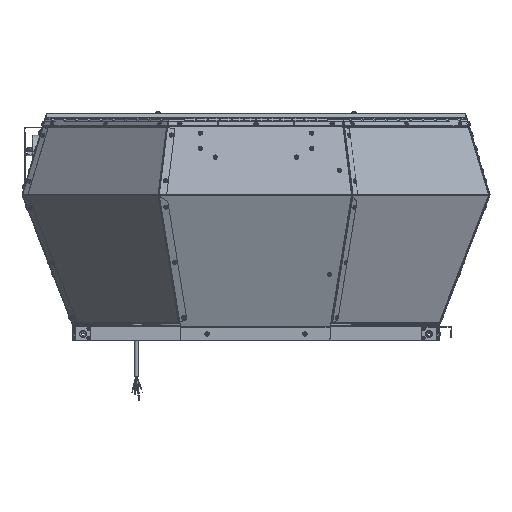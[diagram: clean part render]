
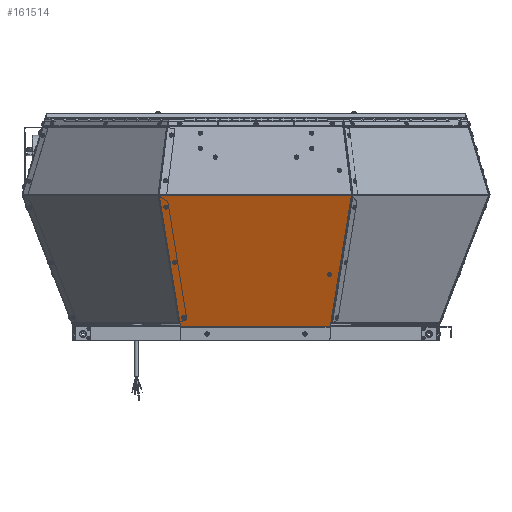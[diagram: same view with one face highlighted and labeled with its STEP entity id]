
A CAD part, top view. The second image highlights one B-rep face of the part: STEP entity #161514.
In plain terms, the highlighted planar face has unit normal (0, -0.362, 0.932).
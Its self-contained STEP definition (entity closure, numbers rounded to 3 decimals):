
#30122 = CARTESIAN_POINT ( 'NONE',  ( -149.264, 119.841, 381.978 ) ) ;
#30123 = DIRECTION ( 'NONE',  ( 0., -0.362, 0.932 ) ) ;
#30124 = DIRECTION ( 'NONE',  ( 0., -0.932, -0.362 ) ) ;
#45925 = DIRECTION ( 'NONE',  ( 0., 0.362, -0.932 ) ) ;
#45938 = PLANE ( 'NONE',  #138844 ) ;
#45941 = CARTESIAN_POINT ( 'NONE',  ( 177.76, 243.677, 430.135 ) ) ;
#45946 = DIRECTION ( 'NONE',  ( 0., 0.932, 0.362 ) ) ;
#49511 = FACE_BOUND ( 'NONE', #154552, .T. ) ;
#49517 = FACE_BOUND ( 'NONE', #153571, .T. ) ;
#49519 = FACE_BOUND ( 'NONE', #155058, .T. ) ;
#49521 = FACE_OUTER_BOUND ( 'NONE', #154607, .T. ) ;
#49525 = FACE_BOUND ( 'NONE', #153148, .T. ) ;
#54356 = AXIS2_PLACEMENT_3D ( 'NONE', #146759, #146761, #146764 ) ;
#54357 = AXIS2_PLACEMENT_3D ( 'NONE', #146771, #146773, #146775 ) ;
#54358 = AXIS2_PLACEMENT_3D ( 'NONE', #146780, #146783, #146786 ) ;
#54359 = AXIS2_PLACEMENT_3D ( 'NONE', #146792, #146794, #146797 ) ;
#54360 = AXIS2_PLACEMENT_3D ( 'NONE', #146801, #146803, #146806 ) ;
#54361 = AXIS2_PLACEMENT_3D ( 'NONE', #146812, #146814, #146817 ) ;
#54364 = AXIS2_PLACEMENT_3D ( 'NONE', #146852, #146855, #146858 ) ;
#54703 = AXIS2_PLACEMENT_3D ( 'NONE', #30122, #30123, #30124 ) ;
#67642 = VERTEX_POINT ( 'NONE', #153661 ) ;
#67834 = VERTEX_POINT ( 'NONE', #153927 ) ;
#67857 = VERTEX_POINT ( 'NONE', #153959 ) ;
#68037 = VERTEX_POINT ( 'NONE', #154143 ) ;
#68745 = ORIENTED_EDGE ( 'NONE', *, *, #156026, .F. ) ;
#68760 = ORIENTED_EDGE ( 'NONE', *, *, #156007, .F. ) ;
#68855 = ORIENTED_EDGE ( 'NONE', *, *, #156020, .F. ) ;
#68868 = ORIENTED_EDGE ( 'NONE', *, *, #156598, .F. ) ;
#68875 = ORIENTED_EDGE ( 'NONE', *, *, #156011, .F. ) ;
#68884 = ORIENTED_EDGE ( 'NONE', *, *, #156009, .F. ) ;
#68935 = ORIENTED_EDGE ( 'NONE', *, *, #156003, .F. ) ;
#68944 = ORIENTED_EDGE ( 'NONE', *, *, #156005, .F. ) ;
#69584 = VERTEX_POINT ( 'NONE', #146538 ) ;
#73295 = ORIENTED_EDGE ( 'NONE', *, *, #155477, .F. ) ;
#73306 = ORIENTED_EDGE ( 'NONE', *, *, #155469, .F. ) ;
#73375 = ORIENTED_EDGE ( 'NONE', *, *, #155467, .F. ) ;
#73933 = ORIENTED_EDGE ( 'NONE', *, *, #155362, .T. ) ;
#74382 = ORIENTED_EDGE ( 'NONE', *, *, #155482, .F. ) ;
#74849 = ORIENTED_EDGE ( 'NONE', *, *, #155471, .F. ) ;
#74886 = ORIENTED_EDGE ( 'NONE', *, *, #155422, .T. ) ;
#75769 = ORIENTED_EDGE ( 'NONE', *, *, #156013, .F. ) ;
#75942 = VERTEX_POINT ( 'NONE', #148190 ) ;
#75948 = VERTEX_POINT ( 'NONE', #148205 ) ;
#76012 = VERTEX_POINT ( 'NONE', #148226 ) ;
#76015 = VERTEX_POINT ( 'NONE', #148234 ) ;
#76027 = VERTEX_POINT ( 'NONE', #148242 ) ;
#76143 = VERTEX_POINT ( 'NONE', #148288 ) ;
#76196 = VERTEX_POINT ( 'NONE', #148304 ) ;
#76219 = VERTEX_POINT ( 'NONE', #148318 ) ;
#76546 = VERTEX_POINT ( 'NONE', #148433 ) ;
#76696 = VERTEX_POINT ( 'NONE', #148475 ) ;
#76705 = VERTEX_POINT ( 'NONE', #148497 ) ;
#81522 = LINE ( 'NONE', #105818, #81557 ) ;
#81557 = VECTOR ( 'NONE', #105824, 1000. ) ;
#105818 = CARTESIAN_POINT ( 'NONE',  ( 136.653, 2.616, 336.392 ) ) ;
#105824 = DIRECTION ( 'NONE',  ( 0.148, 0.922, 0.358 ) ) ;
#105924 = CARTESIAN_POINT ( 'NONE',  ( 177.76, 242.912, 429.838 ) ) ;
#105927 = DIRECTION ( 'NONE',  ( -1., 0., 0. ) ) ;
#106028 = CARTESIAN_POINT ( 'NONE',  ( 175.281, 242.902, 429.834 ) ) ;
#106044 = DIRECTION ( 'NONE',  ( 0., -0.932, -0.362 ) ) ;
#106048 = CARTESIAN_POINT ( 'NONE',  ( 175.281, 242.902, 429.834 ) ) ;
#106050 = DIRECTION ( 'NONE',  ( 0.636, -0.72, -0.28 ) ) ;
#106052 = CARTESIAN_POINT ( 'NONE',  ( 136.094, 8.728, 338.769 ) ) ;
#106055 = DIRECTION ( 'NONE',  ( -1., 0., 0. ) ) ;
#106058 = DIRECTION ( 'NONE',  ( -0.148, 0.922, 0.358 ) ) ;
#106059 = CARTESIAN_POINT ( 'NONE',  ( -139., 2.287, 336.264 ) ) ;
#106081 = CARTESIAN_POINT ( 'NONE',  ( 136.094, -21.935, 326.844 ) ) ;
#106084 = DIRECTION ( 'NONE',  ( 0., -0.932, -0.362 ) ) ;
#116415 = LINE ( 'NONE', #105924, #116417 ) ;
#116417 = VECTOR ( 'NONE', #105927, 1000. ) ;
#116449 = LINE ( 'NONE', #106028, #116472 ) ;
#116470 = LINE ( 'NONE', #106048, #116476 ) ;
#116472 = VECTOR ( 'NONE', #106044, 1000. ) ;
#116474 = LINE ( 'NONE', #106052, #116479 ) ;
#116476 = VECTOR ( 'NONE', #106050, 1000. ) ;
#116479 = VECTOR ( 'NONE', #106055, 1000. ) ;
#116483 = LINE ( 'NONE', #106059, #116486 ) ;
#116486 = VECTOR ( 'NONE', #106058, 1000. ) ;
#116488 = LINE ( 'NONE', #106081, #116493 ) ;
#116493 = VECTOR ( 'NONE', #106084, 1000. ) ;
#117333 = CIRCLE ( 'NONE', #54357, 2.1 ) ;
#117394 = CIRCLE ( 'NONE', #54356, 2.1 ) ;
#117397 = CIRCLE ( 'NONE', #54359, 2.1 ) ;
#117401 = CIRCLE ( 'NONE', #54358, 2.1 ) ;
#117405 = CIRCLE ( 'NONE', #54360, 2.1 ) ;
#117413 = CIRCLE ( 'NONE', #54361, 2.1 ) ;
#117424 = CIRCLE ( 'NONE', #54364, 2.1 ) ;
#117439 = LINE ( 'NONE', #146868, #117450 ) ;
#117450 = VECTOR ( 'NONE', #146873, 1000. ) ;
#119582 = CIRCLE ( 'NONE', #54703, 2.1 ) ;
#138844 = AXIS2_PLACEMENT_3D ( 'NONE', #45941, #45925, #45946 ) ;
#146538 = CARTESIAN_POINT ( 'NONE',  ( -132.933, 20.414, 343.313 ) ) ;
#146759 = CARTESIAN_POINT ( 'NONE',  ( -165.596, 221.226, 421.404 ) ) ;
#146761 = DIRECTION ( 'NONE',  ( 0., -0.362, 0.932 ) ) ;
#146764 = DIRECTION ( 'NONE',  ( 0., -0.932, -0.362 ) ) ;
#146771 = CARTESIAN_POINT ( 'NONE',  ( -165.596, 221.226, 421.404 ) ) ;
#146773 = DIRECTION ( 'NONE',  ( 0., -0.362, 0.932 ) ) ;
#146775 = DIRECTION ( 'NONE',  ( 0., -0.932, -0.362 ) ) ;
#146780 = CARTESIAN_POINT ( 'NONE',  ( -149.264, 119.841, 381.978 ) ) ;
#146783 = DIRECTION ( 'NONE',  ( 0., -0.362, 0.932 ) ) ;
#146786 = DIRECTION ( 'NONE',  ( 0., -0.932, -0.362 ) ) ;
#146792 = CARTESIAN_POINT ( 'NONE',  ( -132.933, 18.456, 342.552 ) ) ;
#146794 = DIRECTION ( 'NONE',  ( 0., -0.362, 0.932 ) ) ;
#146797 = DIRECTION ( 'NONE',  ( 0., -0.932, -0.362 ) ) ;
#146801 = CARTESIAN_POINT ( 'NONE',  ( -132.933, 18.456, 342.552 ) ) ;
#146803 = DIRECTION ( 'NONE',  ( 0., -0.362, 0.932 ) ) ;
#146806 = DIRECTION ( 'NONE',  ( 0., -0.932, -0.362 ) ) ;
#146812 = CARTESIAN_POINT ( 'NONE',  ( 135.215, 97.267, 373.2 ) ) ;
#146814 = DIRECTION ( 'NONE',  ( 0., -0.362, 0.932 ) ) ;
#146817 = DIRECTION ( 'NONE',  ( 0., -0.932, -0.362 ) ) ;
#146852 = CARTESIAN_POINT ( 'NONE',  ( 135.215, 97.267, 373.2 ) ) ;
#146855 = DIRECTION ( 'NONE',  ( 0., -0.362, 0.932 ) ) ;
#146858 = DIRECTION ( 'NONE',  ( 0., -0.932, -0.362 ) ) ;
#146868 = CARTESIAN_POINT ( 'NONE',  ( 177.76, 2.287, 336.264 ) ) ;
#146873 = DIRECTION ( 'NONE',  ( -1., 0., 0. ) ) ;
#148190 = CARTESIAN_POINT ( 'NONE',  ( -177.76, 242.912, 429.838 ) ) ;
#148205 = CARTESIAN_POINT ( 'NONE',  ( 175.281, 242.912, 429.838 ) ) ;
#148226 = CARTESIAN_POINT ( 'NONE',  ( 136.094, 8.728, 338.769 ) ) ;
#148234 = CARTESIAN_POINT ( 'NONE',  ( -132.933, 16.499, 341.791 ) ) ;
#148242 = CARTESIAN_POINT ( 'NONE',  ( -165.596, 219.269, 420.643 ) ) ;
#148288 = CARTESIAN_POINT ( 'NONE',  ( -149.264, 121.798, 382.739 ) ) ;
#148304 = CARTESIAN_POINT ( 'NONE',  ( -149.264, 117.884, 381.217 ) ) ;
#148318 = CARTESIAN_POINT ( 'NONE',  ( -165.596, 223.183, 422.166 ) ) ;
#148433 = CARTESIAN_POINT ( 'NONE',  ( -139., 2.287, 336.264 ) ) ;
#148475 = CARTESIAN_POINT ( 'NONE',  ( 175.347, 242.828, 429.805 ) ) ;
#148497 = CARTESIAN_POINT ( 'NONE',  ( 137.638, 8.728, 338.769 ) ) ;
#153148 = EDGE_LOOP ( 'NONE', ( #68875, #68884 ) ) ;
#153571 = EDGE_LOOP ( 'NONE', ( #68935, #68944 ) ) ;
#153661 = CARTESIAN_POINT ( 'NONE',  ( 135.215, 99.225, 373.961 ) ) ;
#153927 = CARTESIAN_POINT ( 'NONE',  ( 175.281, 242.902, 429.834 ) ) ;
#153959 = CARTESIAN_POINT ( 'NONE',  ( 136.094, 2.287, 336.264 ) ) ;
#154143 = CARTESIAN_POINT ( 'NONE',  ( 135.215, 95.31, 372.438 ) ) ;
#154552 = EDGE_LOOP ( 'NONE', ( #68760, #68868 ) ) ;
#154607 = EDGE_LOOP ( 'NONE', ( #68745, #74382, #74849, #73933, #73306, #73375, #74886, #73295 ) ) ;
#155058 = EDGE_LOOP ( 'NONE', ( #68855, #75769 ) ) ;
#155362 = EDGE_CURVE ( 'NONE', #76705, #76696, #81522, .T. ) ;
#155422 = EDGE_CURVE ( 'NONE', #75948, #75942, #116415, .T. ) ;
#155467 = EDGE_CURVE ( 'NONE', #75948, #67834, #116449, .T. ) ;
#155469 = EDGE_CURVE ( 'NONE', #67834, #76696, #116470, .T. ) ;
#155471 = EDGE_CURVE ( 'NONE', #76705, #76012, #116474, .T. ) ;
#155477 = EDGE_CURVE ( 'NONE', #76546, #75942, #116483, .T. ) ;
#155482 = EDGE_CURVE ( 'NONE', #76012, #67857, #116488, .T. ) ;
#156003 = EDGE_CURVE ( 'NONE', #76027, #76219, #117394, .T. ) ;
#156005 = EDGE_CURVE ( 'NONE', #76219, #76027, #117333, .T. ) ;
#156007 = EDGE_CURVE ( 'NONE', #76196, #76143, #117401, .T. ) ;
#156009 = EDGE_CURVE ( 'NONE', #69584, #76015, #117397, .T. ) ;
#156011 = EDGE_CURVE ( 'NONE', #76015, #69584, #117405, .T. ) ;
#156013 = EDGE_CURVE ( 'NONE', #67642, #68037, #117413, .T. ) ;
#156020 = EDGE_CURVE ( 'NONE', #68037, #67642, #117424, .T. ) ;
#156026 = EDGE_CURVE ( 'NONE', #67857, #76546, #117439, .T. ) ;
#156598 = EDGE_CURVE ( 'NONE', #76143, #76196, #119582, .T. ) ;
#161514 = ADVANCED_FACE ( 'NONE', ( #49519, #49525, #49517, #49511, #49521 ), #45938, .F. ) ;
